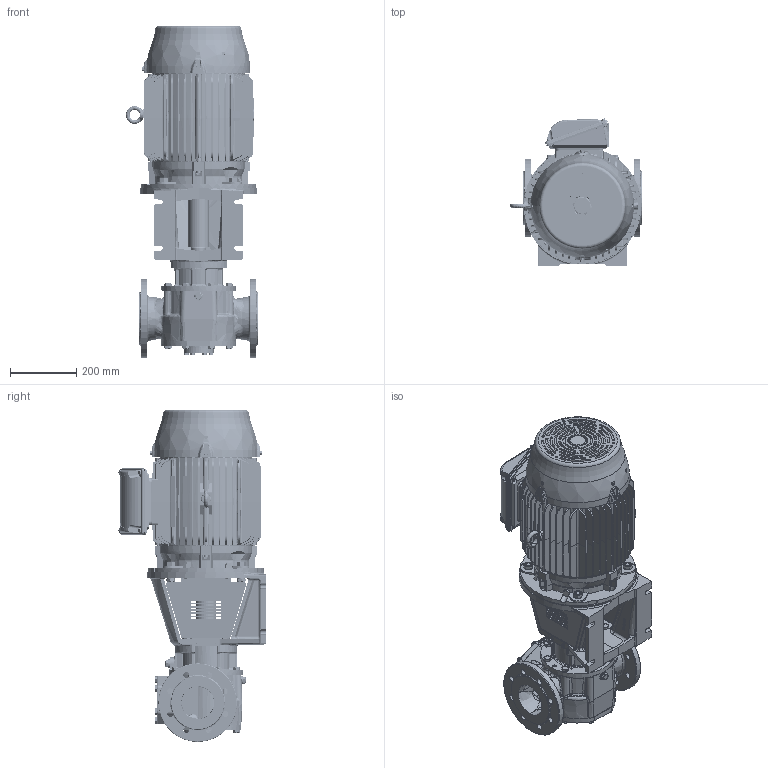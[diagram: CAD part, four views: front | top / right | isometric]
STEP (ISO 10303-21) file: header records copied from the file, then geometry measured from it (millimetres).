
FILE_DESCRIPTION(/* description */ (''),/* implementation_level */ '2;1');
FILE_NAME(/* name */ 'C:\V\JPP\Designs\GEAR PUMPS\PRODUCT ENGINEERING\EUROPE\TG BLOC\TG BLOC_86-100_R5_O_NRV-_160M-STEP.stp',/* time_stamp */ '2021-03-19T14:40:03+01:00',/* author */ ('A77THR'),/* organization */ (''),/* preprocessor_version */ 'ST-DEVELOPER v18.1',/* originating_system */ 'Autodesk Inventor 2020',/* authorisation */ '');
FILE_SCHEMA (('AUTOMOTIVE_DESIGN { 1 0 10303 214 3 1 1 }'));
Length unit declared in the file: millimetre
Products named in the file (1): TG BLOC_86-100_R5_O_NRV-_160M
Bounding box: 399.99 x 444.6 x 1004 mm (x, y, z)
Volume: 51366791.8 mm3; surface area: 2588453.8 mm2
Topology: 1 solids, 1 shells, 4797 faces, 12629 edges, 7981 vertices
Faces by surface type: plane 1936, cylinder 1038, bspline 1028, cone 607, torus 140, sphere 48
Full cylindrical faces by diameter (mm): 4 x1, 4.5 x8, 4.917 x8, 5 x4, 6.647 x1, 7 x4, 7.323 x6, 7.5 x3, 8 x19, 9 x8, 9.188 x8, 9.4 x1, 10 x16, 10.106 x7, 10.2 x2, 11 x8, 11.053 x4, 11.4 x6, 11.445 x2, 11.6 x7, 12 x4, 12.5 x3, 13 x5, 13.157 x2, 13.2 x2, 14 x8, 15.011 x2, 15.4 x8, 16 x1, 17.2 x20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
Entity records: 202761 total; most frequent: CARTESIAN_POINT 87568, ORIENTED_EDGE 25042, DIRECTION 20922, EDGE_CURVE 12521, AXIS2_PLACEMENT_3D 8107, VERTEX_POINT 7981, EDGE_LOOP 5208, FACE_OUTER_BOUND 4797
